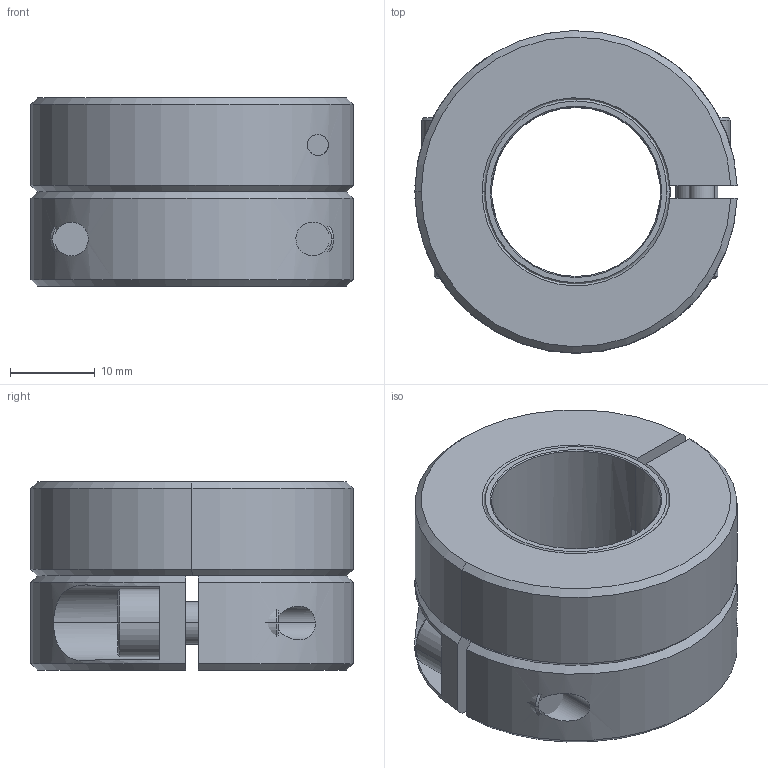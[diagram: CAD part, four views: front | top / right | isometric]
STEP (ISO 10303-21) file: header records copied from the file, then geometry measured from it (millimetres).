
FILE_DESCRIPTION( ( 'STEP File Generated from Kubotek KeyCreator' ), '1' );
FILE_NAME( 'Part1', '2006-06-03T22:47:27', ( 'KeyCreator USER' ), ( 'Kubotek USA, Inc.' ), 'ACIS Interop R13 SP5', 'Kubotek KeyCreator V4.5.0 (0337)', 'KC' );
FILE_SCHEMA( ( 'CONFIG_CONTROL_DESIGN' ) );
Length unit declared in the file: inch
Products named in the file (5): 1; 2; 3; 4; 5
Bounding box: 38.08 x 38.1 x 22.23 mm (x, y, z)
Volume: 17242 mm3; surface area: 10850 mm2
Topology: 5 solids, 5 shells, 123 faces, 295 edges, 190 vertices
Faces by surface type: plane 54, cylinder 40, cone 29
Entity records: 4078 total; most frequent: CARTESIAN_POINT 893, DIRECTION 648, ORIENTED_EDGE 590, EDGE_CURVE 295, AXIS2_PLACEMENT_3D 239, VERTEX_POINT 190, LINE 170, VECTOR 170
